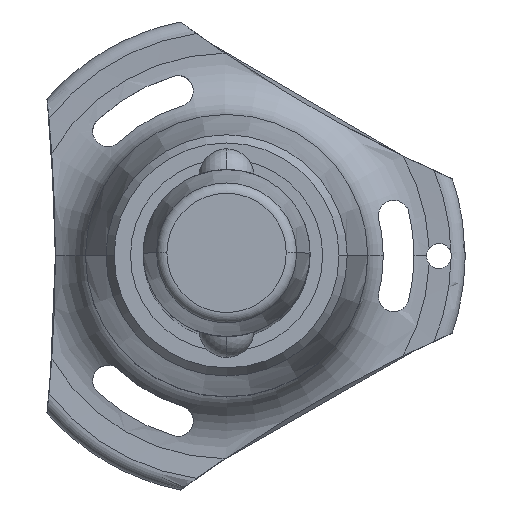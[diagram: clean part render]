
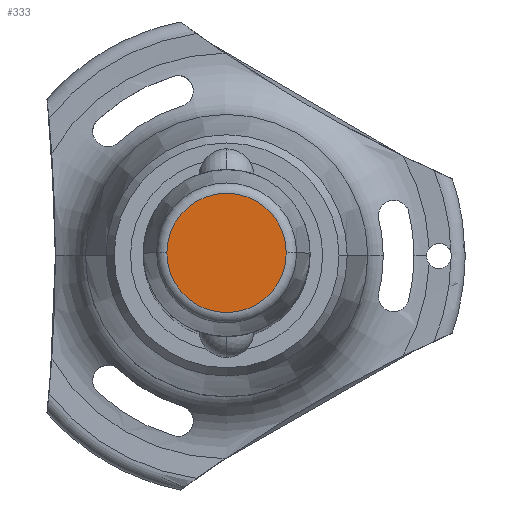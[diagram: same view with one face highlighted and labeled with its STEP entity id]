
A CAD part, top view. The second image highlights one B-rep face of the part: STEP entity #333.
In plain terms, the highlighted planar face has unit normal (0, 0, 1).
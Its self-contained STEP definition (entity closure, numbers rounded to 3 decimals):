
#4 = VERTEX_POINT ( 'NONE', #429 ) ;
#23 = CIRCLE ( 'NONE', #2149, 7.144 ) ;
#323 = FACE_OUTER_BOUND ( 'NONE', #503, .T. ) ;
#333 = ADVANCED_FACE ( 'NONE', ( #323 ), #1942, .T. ) ;
#429 = CARTESIAN_POINT ( 'NONE',  ( -7.144, 0., 20.5 ) ) ;
#503 = EDGE_LOOP ( 'NONE', ( #952, #1445 ) ) ;
#533 = EDGE_CURVE ( 'NONE', #2197, #4, #23, .T. ) ;
#727 = DIRECTION ( 'NONE',  ( 0., 0., 1. ) ) ;
#737 = AXIS2_PLACEMENT_3D ( 'NONE', #2187, #1520, #1039 ) ;
#952 = ORIENTED_EDGE ( 'NONE', *, *, #533, .T. ) ;
#965 = CARTESIAN_POINT ( 'NONE',  ( 0., 0., 20.5 ) ) ;
#1006 = DIRECTION ( 'NONE',  ( 1., 0., 0. ) ) ;
#1039 = DIRECTION ( 'NONE',  ( 1., 0., 0. ) ) ;
#1445 = ORIENTED_EDGE ( 'NONE', *, *, #1460, .T. ) ;
#1460 = EDGE_CURVE ( 'NONE', #4, #2197, #2015, .T. ) ;
#1520 = DIRECTION ( 'NONE',  ( 0., 0., 1. ) ) ;
#1900 = CARTESIAN_POINT ( 'NONE',  ( 0., 0., 20.5 ) ) ;
#1942 = PLANE ( 'NONE',  #2922 ) ;
#2015 = CIRCLE ( 'NONE', #737, 7.144 ) ;
#2024 = CARTESIAN_POINT ( 'NONE',  ( 7.144, 0., 20.5 ) ) ;
#2149 = AXIS2_PLACEMENT_3D ( 'NONE', #965, #727, #2733 ) ;
#2187 = CARTESIAN_POINT ( 'NONE',  ( 0., 0., 20.5 ) ) ;
#2197 = VERTEX_POINT ( 'NONE', #2024 ) ;
#2352 = DIRECTION ( 'NONE',  ( 0., 0., 1. ) ) ;
#2733 = DIRECTION ( 'NONE',  ( 1., 0., 0. ) ) ;
#2922 = AXIS2_PLACEMENT_3D ( 'NONE', #1900, #2352, #1006 ) ;
